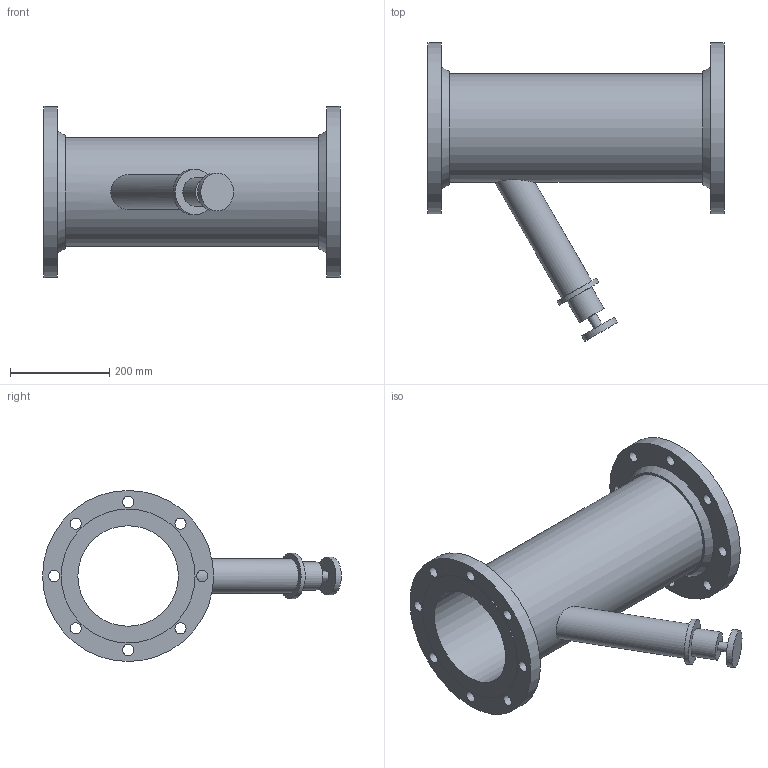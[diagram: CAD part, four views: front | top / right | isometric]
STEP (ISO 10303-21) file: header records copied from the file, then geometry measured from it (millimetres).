
FILE_DESCRIPTION(/* description */ ('VIC TA CIRCUIT BALANCING VALVE SERIES 788 (FLG)','CAx-IF Rec.Pracs.---Representation and Presentation of Product Manufacturing Information (PMI)---4.0---2014-10-13'),/* implementation_level */ '2;1');
FILE_NAME(/* name */ 'C:\Users\Vjadhav\AppData\Roaming\Autodesk\ApplicationPlugins\Back Up\Victaulic-IPS-TA Balancing Valve Series 788\Victaulic-IPS-TA Balancing Valve Series 788_8 (200).stp',/* time_stamp */ '2020-03-19T19:19:48+06:00',/* author */ ('cps_temp'),/* organization */ ('Victaulic'),/* preprocessor_version */ 'ST-DEVELOPER v17.2',/* originating_system */ 'Autodesk Inventor 2019',/* authorisation */ '');
FILE_SCHEMA (('AP242_MANAGED_MODEL_BASED_3D_ENGINEERING_MIM_LF { 1 0 10303 442 1 1 4 }'));
Length unit declared in the file: inch
Products named in the file (1): 788-08.0
Bounding box: 599.95 x 602.49 x 344.93 mm (x, y, z)
Volume: 7591253.3 mm3; surface area: 1146035.6 mm2
Topology: 1 solids, 1 shells, 42 faces, 115 edges, 85 vertices
Faces by surface type: cylinder 27, plane 13, cone 2
Full cylindrical faces by diameter (mm): 19.05 x1, 22.352 x16, 57.15 x1, 69.85 x1, 76.2 x1, 92.05 x1, 202.717 x1, 219.075 x1, 270.002 x2, 344.932 x2
Entity records: 1724 total; most frequent: CARTESIAN_POINT 327, DIRECTION 306, ORIENTED_EDGE 230, AXIS2_PLACEMENT_3D 138, EDGE_CURVE 115, EDGE_LOOP 86, VERTEX_POINT 85, CIRCLE 82
